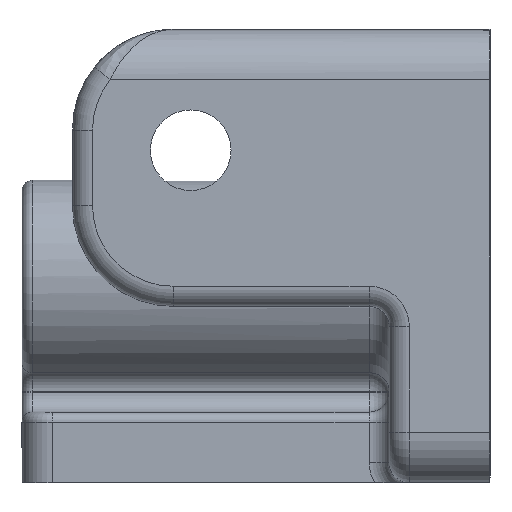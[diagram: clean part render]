
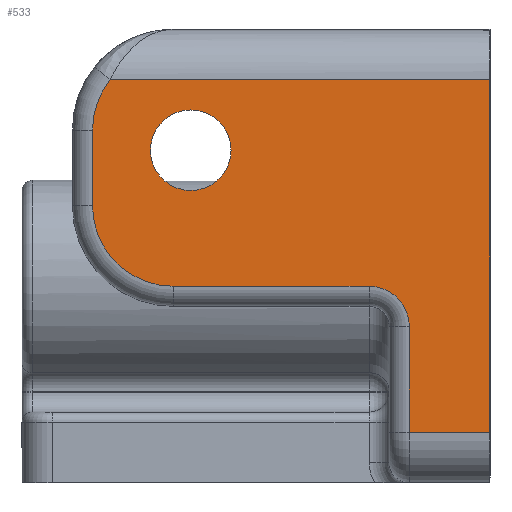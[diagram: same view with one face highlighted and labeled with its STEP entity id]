
A CAD part, left-side view. The second image highlights one B-rep face of the part: STEP entity #533.
In plain terms, the highlighted planar face has unit normal (-1, 0, 0).
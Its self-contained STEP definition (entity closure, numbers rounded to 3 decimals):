
#14 = EDGE_CURVE ( 'NONE', #987, #997, #1088, .T. ) ;
#19 = EDGE_CURVE ( 'NONE', #1054, #1053, #1067, .T. ) ;
#20 = EDGE_CURVE ( 'NONE', #1117, #1103, #1068, .T. ) ;
#21 = EDGE_CURVE ( 'NONE', #1054, #1043, #1077, .T. ) ;
#26 = EDGE_CURVE ( 'NONE', #1033, #1005, #1075, .T. ) ;
#27 = EDGE_CURVE ( 'NONE', #1005, #1001, #1083, .T. ) ;
#31 = EDGE_CURVE ( 'NONE', #1001, #1117, #1093, .T. ) ;
#53 = EDGE_CURVE ( 'NONE', #1103, #1053, #1316, .T. ) ;
#105 = DIRECTION ( 'NONE',  ( 0., 0., -1. ) ) ;
#218 = AXIS2_PLACEMENT_3D ( 'NONE', #2327, #2328, #2329 ) ;
#283 = AXIS2_PLACEMENT_3D ( 'NONE', #2840, #2845, #2846 ) ;
#312 = DIRECTION ( 'NONE',  ( 0., 0., -1. ) ) ;
#313 = DIRECTION ( 'NONE',  ( -1., 0., 0. ) ) ;
#314 = CARTESIAN_POINT ( 'NONE',  ( -34., 31.45, 15. ) ) ;
#316 = DIRECTION ( 'NONE',  ( 0., 1., 0. ) ) ;
#318 = CARTESIAN_POINT ( 'NONE',  ( -34., 10., 20. ) ) ;
#383 = CARTESIAN_POINT ( 'NONE',  ( -34., 39.45, 25. ) ) ;
#533 = ADVANCED_FACE ( 'NONE', ( #2068, #2074 ), #2843, .F. ) ;
#588 = DIRECTION ( 'NONE',  ( 0., 0., -1. ) ) ;
#607 = CARTESIAN_POINT ( 'NONE',  ( -34., 10., -0.5 ) ) ;
#611 = DIRECTION ( 'NONE',  ( 0., -1., 0. ) ) ;
#701 = DIRECTION ( 'NONE',  ( 1., 0., 0. ) ) ;
#703 = DIRECTION ( 'NONE',  ( 0., 0., -1. ) ) ;
#750 = ORIENTED_EDGE ( 'NONE', *, *, #21, .T. ) ;
#754 = ORIENTED_EDGE ( 'NONE', *, *, #53, .T. ) ;
#763 = ORIENTED_EDGE ( 'NONE', *, *, #14, .T. ) ;
#825 = ORIENTED_EDGE ( 'NONE', *, *, #2034, .T. ) ;
#955 = LINE ( 'NONE', #2298, #960 ) ;
#960 = VECTOR ( 'NONE', #2299, 1000. ) ;
#963 = CIRCLE ( 'NONE', #218, 4. ) ;
#987 = VERTEX_POINT ( 'NONE', #1147 ) ;
#997 = VERTEX_POINT ( 'NONE', #1199 ) ;
#1001 = VERTEX_POINT ( 'NONE', #1203 ) ;
#1005 = VERTEX_POINT ( 'NONE', #1207 ) ;
#1033 = VERTEX_POINT ( 'NONE', #1235 ) ;
#1041 = VERTEX_POINT ( 'NONE', #1243 ) ;
#1043 = VERTEX_POINT ( 'NONE', #1245 ) ;
#1053 = VERTEX_POINT ( 'NONE', #1255 ) ;
#1054 = VERTEX_POINT ( 'NONE', #1256 ) ;
#1067 = CIRCLE ( 'NONE', #2005, 4. ) ;
#1068 = CIRCLE ( 'NONE', #2004, 8. ) ;
#1071 = VECTOR ( 'NONE', #105, 1000. ) ;
#1075 = LINE ( 'NONE', #318, #1085 ) ;
#1077 = LINE ( 'NONE', #3573, #1071 ) ;
#1083 = CIRCLE ( 'NONE', #1999, 8. ) ;
#1085 = VECTOR ( 'NONE', #316, 1000. ) ;
#1088 = CIRCLE ( 'NONE', #2010, 4. ) ;
#1093 = LINE ( 'NONE', #383, #1097 ) ;
#1097 = VECTOR ( 'NONE', #588, 1000. ) ;
#1103 = VERTEX_POINT ( 'NONE', #1265 ) ;
#1117 = VERTEX_POINT ( 'NONE', #1271 ) ;
#1123 = CARTESIAN_POINT ( 'NONE',  ( -34., 29.7, 13. ) ) ;
#1147 = CARTESIAN_POINT ( 'NONE',  ( -34., 29.7, 9. ) ) ;
#1199 = CARTESIAN_POINT ( 'NONE',  ( -34., 29.7, 17. ) ) ;
#1203 = CARTESIAN_POINT ( 'NONE',  ( -34., 39.45, 15. ) ) ;
#1207 = CARTESIAN_POINT ( 'NONE',  ( -34., 37.695, 20. ) ) ;
#1235 = CARTESIAN_POINT ( 'NONE',  ( -34., 0., 20. ) ) ;
#1243 = CARTESIAN_POINT ( 'NONE',  ( -34., 0., -15. ) ) ;
#1245 = CARTESIAN_POINT ( 'NONE',  ( -34., 8., -15. ) ) ;
#1255 = CARTESIAN_POINT ( 'NONE',  ( -34., 12., -0.5 ) ) ;
#1256 = CARTESIAN_POINT ( 'NONE',  ( -34., 8., -4.5 ) ) ;
#1265 = CARTESIAN_POINT ( 'NONE',  ( -34., 31.45, -0.5 ) ) ;
#1271 = CARTESIAN_POINT ( 'NONE',  ( -34., 39.45, 7.5 ) ) ;
#1316 = LINE ( 'NONE', #607, #1321 ) ;
#1321 = VECTOR ( 'NONE', #611, 1000. ) ;
#1999 = AXIS2_PLACEMENT_3D ( 'NONE', #314, #313, #312 ) ;
#2004 = AXIS2_PLACEMENT_3D ( 'NONE', #3575, #3576, #3574 ) ;
#2005 = AXIS2_PLACEMENT_3D ( 'NONE', #2267, #3571, #3572 ) ;
#2010 = AXIS2_PLACEMENT_3D ( 'NONE', #1123, #701, #703 ) ;
#2032 = EDGE_CURVE ( 'NONE', #1043, #1041, #2109, .T. ) ;
#2034 = EDGE_CURVE ( 'NONE', #1041, #1033, #955, .T. ) ;
#2068 = FACE_BOUND ( 'NONE', #3317, .T. ) ;
#2074 = FACE_OUTER_BOUND ( 'NONE', #3456, .T. ) ;
#2109 = LINE ( 'NONE', #2292, #2110 ) ;
#2110 = VECTOR ( 'NONE', #2275, 1000. ) ;
#2183 = EDGE_CURVE ( 'NONE', #997, #987, #963, .T. ) ;
#2267 = CARTESIAN_POINT ( 'NONE',  ( -34., 12., -4.5 ) ) ;
#2275 = DIRECTION ( 'NONE',  ( 0., -1., 0. ) ) ;
#2292 = CARTESIAN_POINT ( 'NONE',  ( -34., 10., -15. ) ) ;
#2298 = CARTESIAN_POINT ( 'NONE',  ( -34., 0., 25. ) ) ;
#2299 = DIRECTION ( 'NONE',  ( 0., 0., 1. ) ) ;
#2327 = CARTESIAN_POINT ( 'NONE',  ( -34., 29.7, 13. ) ) ;
#2328 = DIRECTION ( 'NONE',  ( 1., 0., 0. ) ) ;
#2329 = DIRECTION ( 'NONE',  ( 0., 0., -1. ) ) ;
#2544 = ORIENTED_EDGE ( 'NONE', *, *, #20, .T. ) ;
#2548 = ORIENTED_EDGE ( 'NONE', *, *, #31, .T. ) ;
#2840 = CARTESIAN_POINT ( 'NONE',  ( -34., 10., 25. ) ) ;
#2843 = PLANE ( 'NONE',  #283 ) ;
#2845 = DIRECTION ( 'NONE',  ( 1., 0., 0. ) ) ;
#2846 = DIRECTION ( 'NONE',  ( 0., 0., -1. ) ) ;
#2958 = ORIENTED_EDGE ( 'NONE', *, *, #27, .T. ) ;
#2975 = ORIENTED_EDGE ( 'NONE', *, *, #19, .F. ) ;
#3317 = EDGE_LOOP ( 'NONE', ( #763, #3393 ) ) ;
#3330 = ORIENTED_EDGE ( 'NONE', *, *, #2032, .T. ) ;
#3393 = ORIENTED_EDGE ( 'NONE', *, *, #2183, .T. ) ;
#3456 = EDGE_LOOP ( 'NONE', ( #2975, #750, #3330, #825, #3472, #2958, #2548, #2544, #754 ) ) ;
#3472 = ORIENTED_EDGE ( 'NONE', *, *, #26, .T. ) ;
#3571 = DIRECTION ( 'NONE',  ( -1., 0., 0. ) ) ;
#3572 = DIRECTION ( 'NONE',  ( 0., 0., -1. ) ) ;
#3573 = CARTESIAN_POINT ( 'NONE',  ( -34., 8., 25. ) ) ;
#3574 = DIRECTION ( 'NONE',  ( 0., 0., -1. ) ) ;
#3575 = CARTESIAN_POINT ( 'NONE',  ( -34., 31.45, 7.5 ) ) ;
#3576 = DIRECTION ( 'NONE',  ( -1., 0., 0. ) ) ;
